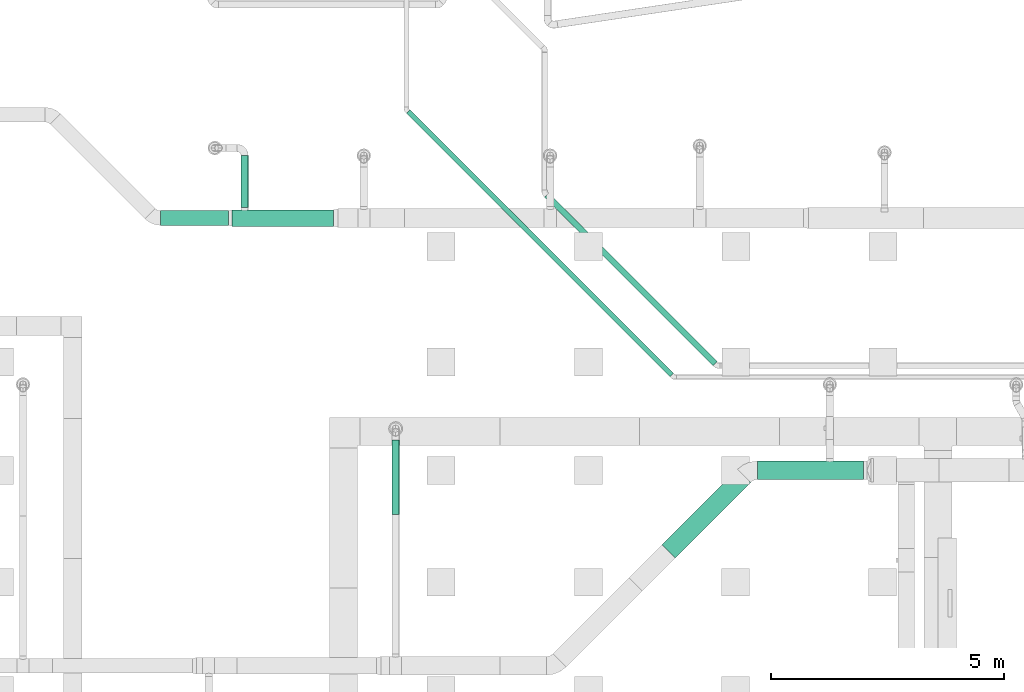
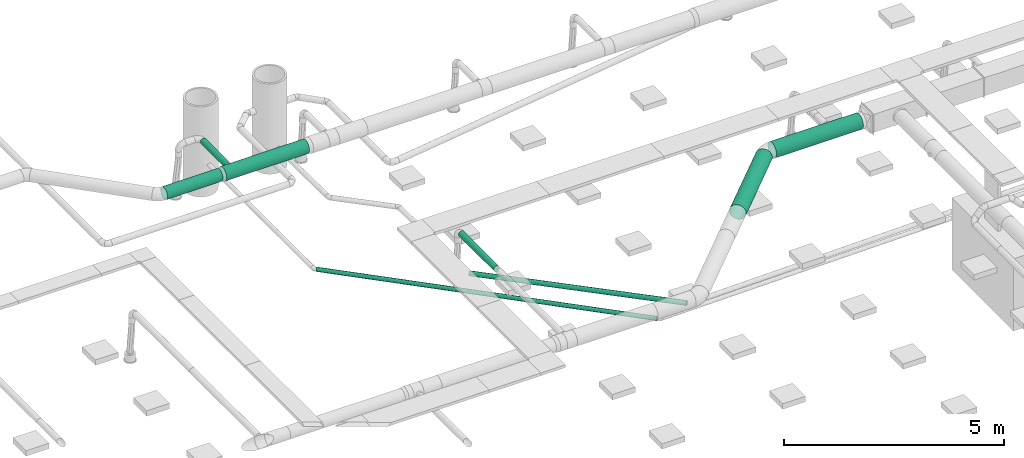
# One storey, part 220 of 374: 8 flow segments.
"""IFC2X3 building model written with IfcOpenShell, lengths in metres."""

from ifc_helpers import new_model, si_unit, direction, origin, place, context, subcontext, project, spatial, open_shell, surface_model, source, transform, mapped, element, save


model = new_model("IFC2X3")

# Units and contexts
model_context = context("Model", 3, precision=1e-05, world=origin(), true_north=direction((-0.4480736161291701, 0.8939966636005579)))
body_context = subcontext(model_context, "Body", "Model", "MODEL_VIEW")
ifc_project = project(units=[si_unit("LENGTHUNIT", "METRE"), si_unit("AREAUNIT", "SQUARE_METRE"), si_unit("VOLUMEUNIT", "CUBIC_METRE"), si_unit("PLANEANGLEUNIT", "RADIAN"), si_unit("THERMODYNAMICTEMPERATUREUNIT", "KELVIN"), si_unit("MASSUNIT", "GRAM", prefix="KILO"), si_unit("TIMEUNIT", "SECOND")], contexts=[model_context])

# Site, building, storey
site_placement = place(None, origin())
site = spatial("IfcSite", under=ifc_project, at=site_placement, Name="Site 1", CompositionType="ELEMENT")
building_placement = place(site_placement, origin())
building = spatial("IfcBuilding", under=site, at=building_placement, Name="Undefined", CompositionType="ELEMENT")
storey_placement = place(building_placement, origin())
storey = spatial("IfcBuildingStorey", under=building, at=storey_placement, Name="Rez de chauss\x8ee", CompositionType="ELEMENT", Elevation=0.0)

# Flow segments
shared_shape_1 = source(origin(), body_context, "Body", "SurfaceModel", [
    surface_model("IfcFaceBasedSurfaceModel", [(0.0, 0.0163157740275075, 0.0), (0.0, 0.0, 0.0), (5.113848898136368, 7.105427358e-15, -8.8817842e-16), (5.113848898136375, 0.01631577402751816, -1.776356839e-15), (0.0, -0.015759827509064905, -0.004222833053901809), (5.113848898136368, -0.0157598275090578, -0.004222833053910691), (0.0, -0.029889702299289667, -0.012380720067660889), (5.1138488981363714, -0.02988970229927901, -0.012380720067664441), (0.0, -0.04142669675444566, -0.02391771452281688), (5.113848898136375, -0.041426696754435, -0.02391771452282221), (0.0, -0.04958458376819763, -0.038047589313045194), (5.1138488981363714, -0.04958458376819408, -0.038047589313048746), (0.0, -0.053807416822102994, -0.053807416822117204), (5.1138488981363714, -0.05380741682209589, -0.05380741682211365), (0.0, -0.053807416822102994, -0.07012319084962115), (5.1138488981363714, -0.05380741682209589, -0.07012319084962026), (0.0, -0.04958458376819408, -0.08588301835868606), (5.1138488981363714, -0.049584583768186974, -0.08588301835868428), (0.0, -0.04142669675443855, -0.10001289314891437), (5.1138488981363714, -0.041426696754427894, -0.1000128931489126), (0.0, -0.02988970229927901, -0.11154988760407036), (5.1138488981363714, -0.029889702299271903, -0.11154988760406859), (0.0, -0.015759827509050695, -0.11970777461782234), (5.113848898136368, -0.015759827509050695, -0.11970777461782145), (0.0, 1.4210854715e-14, -0.12393060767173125), (5.1138488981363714, 2.1316282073e-14, -0.1239306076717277), (0.0, 0.016315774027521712, -0.12393060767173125), (5.113848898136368, 0.01631577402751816, -0.12393060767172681), (0.0, 0.03207560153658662, -0.11970777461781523), (5.113848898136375, 0.03207560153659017, -0.11970777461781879), (0.0, 0.04620547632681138, -0.11154988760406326), (5.1138488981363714, 0.046205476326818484, -0.11154988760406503), (0.0, 0.05774247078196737, -0.10001289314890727), (5.113848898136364, 0.057742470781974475, -0.10001289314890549), (0.0, 0.06590035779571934, -0.08588301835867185), (5.1138488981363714, 0.06590035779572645, -0.08588301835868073), (0.0, 0.0701231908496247, -0.07012319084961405), (5.1138488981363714, 0.07012319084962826, -0.07012319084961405), (0.0, 0.0701231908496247, -0.05380741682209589), (5.1138488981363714, 0.07012319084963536, -0.05380741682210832), (0.0, 0.06590035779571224, -0.03804758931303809), (5.113848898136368, 0.06590035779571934, -0.03804758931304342), (0.0, 0.05774247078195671, -0.023917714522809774), (5.113848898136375, 0.05774247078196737, -0.02391771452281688), (0.0, 0.04620547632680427, -0.012380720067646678), (5.1138488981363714, 0.04620547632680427, -0.012380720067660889), (0.0, 0.03207560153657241, -0.004222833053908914), (5.1138488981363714, 0.032075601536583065, -0.004222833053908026)], [open_shell([[[0, 1, 2, 3]], [[1, 4, 5, 2]], [[4, 6, 7, 5]], [[6, 8, 9, 7]], [[8, 10, 11, 9]], [[10, 12, 13, 11]], [[12, 14, 15, 13]], [[14, 16, 17, 15]], [[16, 18, 19, 17]], [[18, 20, 21, 19]], [[20, 22, 23, 21]], [[22, 24, 25, 23]], [[24, 26, 27, 25]], [[26, 28, 29, 27]], [[28, 30, 31, 29]], [[30, 32, 33, 31]], [[32, 34, 35, 33]], [[34, 36, 37, 35]], [[36, 38, 39, 37]], [[38, 40, 41, 39]], [[40, 42, 43, 41]], [[42, 44, 45, 43]], [[44, 46, 47, 45]], [[46, 0, 3, 47]]])]),
])
flow_segment_1_placement = place(storey_placement, origin())
element("IfcFlowSegment", 1, at=flow_segment_1_placement, inside=storey, Name="PE-HD tuyau", ObjectType="PE-HD tuyau", context=body_context, shape_type="MappedRepresentation", body=[
    mapped(shared_shape_1, transform((38.20433170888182, 21.01013848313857, -1.556930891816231), x_axis=(0.7069654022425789, -0.706965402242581, 0.01999600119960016), y_axis=(0.6992118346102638, 0.7029029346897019, 0.13050009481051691), z_axis=(-0.1063142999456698, -0.0782776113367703, 0.9912466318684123))),
])
shared_shape_2 = source(origin(), body_context, "Body", "SurfaceModel", [
    surface_model("IfcFaceBasedSurfaceModel", [(0.0, 0.014357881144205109, -3.552713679e-15), (0.0, 0.0, 0.0), (7.9999999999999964, 0.0, 4.4408921e-16), (7.999999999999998, 0.01435788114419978, 4.4408921e-16), (0.0, -0.01386864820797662, -0.0037160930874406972), (8.000000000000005, -0.013868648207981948, -0.0037160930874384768), (0.0, -0.026302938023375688, -0.010895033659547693), (8.000000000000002, -0.02630293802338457, -0.010895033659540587), (0.0, -0.03645549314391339, -0.021047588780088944), (7.999999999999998, -0.036455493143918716, -0.021047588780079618), (0.0, -0.04363443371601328, -0.033481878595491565), (7.999999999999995, -0.043634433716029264, -0.03348187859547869), (0.0, -0.04735052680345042, -0.04735052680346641), (7.999999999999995, -0.04735052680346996, -0.047350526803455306), (0.0, -0.04735052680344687, -0.06170840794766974), (7.9999999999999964, -0.04735052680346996, -0.06170840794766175), (0.0, -0.04363443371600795, -0.07557705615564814), (7.999999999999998, -0.04363443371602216, -0.07557705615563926), (0.0, -0.03645549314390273, -0.08801134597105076), (7.999999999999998, -0.03645549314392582, -0.08801134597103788), (0.0, -0.026302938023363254, -0.0981639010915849), (7.999999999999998, -0.02630293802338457, -0.09816390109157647), (0.0, -0.013868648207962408, -0.1053428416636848), (7.999999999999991, -0.013868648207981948, -0.10534284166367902), (0.0, 1.5987211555e-14, -0.10905893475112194), (8.0, -7.105427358e-15, -0.10905893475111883), (0.0, 0.014357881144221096, -0.10905893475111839), (7.999999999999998, 0.014357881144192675, -0.10905893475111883), (0.0, 0.028226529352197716, -0.10534284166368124), (7.9999999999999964, 0.028226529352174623, -0.10534284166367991), (0.0, 0.040660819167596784, -0.0981639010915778), (7.999999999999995, 0.040660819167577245, -0.09816390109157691), (0.0, 0.05081337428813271, -0.08801134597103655), (7.999999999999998, 0.05081337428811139, -0.08801134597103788), (0.0, 0.05799231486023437, -0.07557705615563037), (8.000000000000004, 0.05799231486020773, -0.0755770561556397), (0.0, 0.06170840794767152, -0.06170840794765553), (8.0, 0.061708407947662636, -0.06170840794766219), (0.0, 0.061708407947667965, -0.0473505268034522), (7.999999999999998, 0.061708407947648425, -0.047350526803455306), (0.0, 0.05799231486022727, -0.033481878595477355), (8.0, 0.05799231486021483, -0.033481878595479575), (0.0, 0.050813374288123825, -0.021047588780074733), (7.999999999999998, 0.050813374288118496, -0.021047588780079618), (0.0, 0.04066081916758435, -0.010895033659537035), (7.999999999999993, 0.040660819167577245, -0.010895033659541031), (0.0, 0.028226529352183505, -0.0037160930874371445), (7.9999999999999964, 0.028226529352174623, -0.0037160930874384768)], [open_shell([[[0, 1, 2, 3]], [[1, 4, 5, 2]], [[4, 6, 7, 5]], [[6, 8, 9, 7]], [[8, 10, 11, 9]], [[10, 12, 13, 11]], [[12, 14, 15, 13]], [[14, 16, 17, 15]], [[16, 18, 19, 17]], [[18, 20, 21, 19]], [[20, 22, 23, 21]], [[22, 24, 25, 23]], [[24, 26, 27, 25]], [[26, 28, 29, 27]], [[28, 30, 31, 29]], [[30, 32, 33, 31]], [[32, 34, 35, 33]], [[34, 36, 37, 35]], [[36, 38, 39, 37]], [[38, 40, 41, 39]], [[40, 42, 43, 41]], [[42, 44, 45, 43]], [[44, 46, 47, 45]], [[46, 0, 3, 47]]])]),
])
flow_segment_2_placement = place(storey_placement, origin())
element("IfcFlowSegment", 2, at=flow_segment_2_placement, inside=storey, Name="PE-HD tuyau", ObjectType="PE-HD tuyau", context=body_context, shape_type="MappedRepresentation", body=[
    mapped(shared_shape_2, transform((40.91258523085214, 17.167125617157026, -1.4159488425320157), x_axis=(-0.7070272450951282, 0.7071067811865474, -0.010605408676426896), y_axis=(-0.7029362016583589, -0.7010573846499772, 0.11999683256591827), z_axis=(0.07741557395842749, 0.09229595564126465, 0.9927176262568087))),
])
shared_shape_3 = source(origin(), body_context, "Body", "SurfaceModel", [
    surface_model("IfcFaceBasedSurfaceModel", [(0.0, 0.020884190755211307, 0.0), (0.0, 0.0, 0.0), (1.5991548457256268, 0.0, 0.0), (1.5991548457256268, 0.020884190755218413, 0.0), (0.0, -0.020172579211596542, -0.005405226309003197), (1.5991548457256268, -0.020172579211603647, -0.005405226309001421), (0.0, -0.03825881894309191, -0.015847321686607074), (1.5991548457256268, -0.038258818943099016, -0.015847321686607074), (0.0, -0.05302617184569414, -0.0306146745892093), (1.5991548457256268, -0.05302617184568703, -0.0306146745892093), (0.0, -0.06346826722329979, -0.04870091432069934), (1.5991548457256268, -0.06346826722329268, -0.048700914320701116), (0.0, -0.06887349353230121, -0.06887349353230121), (1.5991548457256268, -0.06887349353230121, -0.06887349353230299), (0.0, -0.06887349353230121, -0.08975768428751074), (1.5991548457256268, -0.0688734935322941, -0.08975768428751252), (0.0, -0.06346826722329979, -0.10993026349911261), (1.5991548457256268, -0.06346826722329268, -0.10993026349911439), (0.0, -0.05302617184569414, -0.12801650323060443), (1.5991548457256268, -0.05302617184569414, -0.12801650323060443), (0.0, -0.038258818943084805, -0.14278385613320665), (1.5991548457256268, -0.038258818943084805, -0.14278385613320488), (0.0, -0.020172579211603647, -0.15322595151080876), (1.5991548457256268, -0.020172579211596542, -0.15322595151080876), (0.0, 7.105427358e-15, -0.15863117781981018), (1.5991548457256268, 1.4210854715e-14, -0.15863117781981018), (0.0, 0.020884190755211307, -0.15863117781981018), (1.5991548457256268, 0.020884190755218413, -0.15863117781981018), (0.0, 0.04105676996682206, -0.15322595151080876), (1.5991548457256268, 0.04105676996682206, -0.15322595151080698), (0.0, 0.05914300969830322, -0.1427838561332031), (1.5991548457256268, 0.05914300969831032, -0.14278385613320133), (0.0, 0.07391036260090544, -0.12801650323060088), (1.5991548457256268, 0.07391036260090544, -0.1280165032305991), (0.0, 0.0843524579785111, -0.10993026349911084), (1.5991548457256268, 0.0843524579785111, -0.10993026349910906), (0.0, 0.08975768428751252, -0.08975768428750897), (1.5991548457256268, 0.08975768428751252, -0.08975768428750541), (0.0, 0.08975768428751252, -0.06887349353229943), (1.5991548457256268, 0.08975768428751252, -0.06887349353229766), (0.0, 0.0843524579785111, -0.048700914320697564), (1.5991548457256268, 0.0843524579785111, -0.04870091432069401), (0.0, 0.07391036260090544, -0.030614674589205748), (1.5991548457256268, 0.07391036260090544, -0.030614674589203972), (0.0, 0.05914300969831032, -0.015847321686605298), (1.5991548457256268, 0.05914300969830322, -0.01584732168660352), (0.0, 0.04105676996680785, -0.005405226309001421), (1.5991548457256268, 0.041056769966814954, -0.005405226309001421)], [open_shell([[[0, 1, 2, 3]], [[1, 4, 5, 2]], [[4, 6, 7, 5]], [[6, 8, 9, 7]], [[8, 10, 11, 9]], [[10, 12, 13, 11]], [[12, 14, 15, 13]], [[14, 16, 17, 15]], [[16, 18, 19, 17]], [[18, 20, 21, 19]], [[20, 22, 23, 21]], [[22, 24, 25, 23]], [[24, 26, 27, 25]], [[26, 28, 29, 27]], [[28, 30, 31, 29]], [[30, 32, 33, 31]], [[32, 34, 35, 33]], [[34, 36, 37, 35]], [[36, 38, 39, 37]], [[38, 40, 41, 39]], [[40, 42, 43, 41]], [[42, 44, 45, 43]], [[44, 46, 47, 45]], [[46, 0, 3, 47]]])]),
])
flow_segment_3_placement = place(storey_placement, origin())
element("IfcFlowSegment", 3, at=flow_segment_3_placement, inside=storey, Name="Tube", ObjectType="Tube", context=body_context, shape_type="MappedRepresentation", body=[
    mapped(shared_shape_3, transform((34.99670139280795, 14.169193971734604, 3.877274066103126), x_axis=(0.0, 1.0, 0.0), y_axis=(-0.9914448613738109, 0.0, 0.1305261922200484), z_axis=(0.1305261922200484, 0.0, 0.9914448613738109))),
])
shared_shape_4 = source(origin(), body_context, "Body", "SurfaceModel", [
    surface_model("IfcFaceBasedSurfaceModel", [(0.0, 0.04111575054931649, 0.0), (0.0, 0.0, 0.0), (1.45276648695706, 0.0, 0.0), (1.45276648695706, 0.04111575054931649, 0.0), (0.0, -0.03971476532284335, -0.010641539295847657), (1.45276648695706, -0.039714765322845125, -0.010641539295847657), (0.0, -0.0753220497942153, -0.0311994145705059), (1.45276648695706, -0.07532204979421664, -0.0311994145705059), (0.0, -0.10439527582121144, -0.060272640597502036), (1.45276648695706, -0.10439527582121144, -0.06027264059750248), (0.0, -0.12495315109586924, -0.09587992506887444), (1.45276648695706, -0.12495315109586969, -0.095879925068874), (0.0, -0.13559469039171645, -0.13559469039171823), (1.45276648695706, -0.13559469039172, -0.13559469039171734), (0.0, -0.135594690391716, -0.17671044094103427), (1.45276648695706, -0.13559469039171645, -0.17671044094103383), (0.0, -0.1249531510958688, -0.21642520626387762), (1.45276648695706, -0.12495315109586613, -0.21642520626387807), (0.0, -0.10439527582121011, -0.2520324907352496), (1.45276648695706, -0.10439527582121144, -0.2520324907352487), (0.0, -0.07532204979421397, -0.2811057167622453), (1.45276648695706, -0.07532204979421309, -0.2811057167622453), (0.0, -0.039714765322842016, -0.3016635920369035), (1.45276648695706, -0.03971476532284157, -0.3016635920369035), (0.0, 1.776356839e-15, -0.3123051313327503), (1.45276648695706, 0.0, -0.3123051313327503), (0.0, 0.041115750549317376, -0.31230513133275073), (1.45276648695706, 0.04111575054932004, -0.3123051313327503), (0.0, 0.08083051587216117, -0.30166359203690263), (1.45276648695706, 0.08083051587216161, -0.30166359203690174), (0.0, 0.11643780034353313, -0.28110571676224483), (1.45276648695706, 0.11643780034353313, -0.2811057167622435), (0.0, 0.14551102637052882, -0.25203249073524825), (1.45276648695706, 0.14551102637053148, -0.2520324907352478), (0.0, 0.16606890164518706, -0.2164252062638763), (1.45276648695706, 0.16606890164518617, -0.2164252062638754), (0.0, 0.17671044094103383, -0.1767104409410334), (1.45276648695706, 0.17671044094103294, -0.17671044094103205), (0.0, 0.17671044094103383, -0.1355946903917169), (1.45276648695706, 0.17671044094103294, -0.13559469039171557), (0.0, 0.16606890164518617, -0.09587992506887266), (1.45276648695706, 0.16606890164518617, -0.09587992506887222), (0.0, 0.14551102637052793, -0.06027264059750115), (1.45276648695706, 0.14551102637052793, -0.060272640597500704), (0.0, 0.1164378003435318, -0.031199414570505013), (1.45276648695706, 0.11643780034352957, -0.031199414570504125), (0.0, 0.08083051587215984, -0.010641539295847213), (1.45276648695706, 0.08083051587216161, -0.01064153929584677)], [open_shell([[[0, 1, 2, 3]], [[1, 4, 5, 2]], [[4, 6, 7, 5]], [[6, 8, 9, 7]], [[8, 10, 11, 9]], [[10, 12, 13, 11]], [[12, 14, 15, 13]], [[14, 16, 17, 15]], [[16, 18, 19, 17]], [[18, 20, 21, 19]], [[20, 22, 23, 21]], [[22, 24, 25, 23]], [[24, 26, 27, 25]], [[26, 28, 29, 27]], [[28, 30, 31, 29]], [[30, 32, 33, 31]], [[32, 34, 35, 33]], [[34, 36, 37, 35]], [[36, 38, 39, 37]], [[38, 40, 41, 39]], [[40, 42, 43, 41]], [[42, 44, 45, 43]], [[44, 46, 47, 45]], [[46, 0, 3, 47]]])]),
])
flow_segment_4_placement = place(storey_placement, origin())
element("IfcFlowSegment", 4, at=flow_segment_4_placement, inside=storey, Name="Tube", ObjectType="Tube", context=body_context, shape_type="MappedRepresentation", body=[
    mapped(shared_shape_4, transform((31.38490627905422, 20.567652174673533, 3.952133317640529), x_axis=(-1.0, 0.0, 0.0), y_axis=(7.266545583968e-12, -0.9914448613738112, 0.13052619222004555), z_axis=(0.0, 0.13052619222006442, 0.9914448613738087))),
])
shared_shape_5 = source(origin(), body_context, "Body", "SurfaceModel", [
    surface_model("IfcFaceBasedSurfaceModel", [(0.0, 0.05221047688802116, -8.8817842e-16), (0.0, 0.0, 0.0), (2.2940076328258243, 0.0, 8.8817842e-16), (2.2940076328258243, 0.052210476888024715, -8.8817842e-16), (0.0, -0.05043144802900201, -0.013513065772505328), (2.2940076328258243, -0.05043144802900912, -0.01351306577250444), (0.0, -0.09564704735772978, -0.0396183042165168), (2.2940076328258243, -0.09564704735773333, -0.03961830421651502), (0.0, -0.1325654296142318, -0.07653668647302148), (2.2940076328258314, -0.1325654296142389, -0.07653668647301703), (0.0, -0.15867066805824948, -0.12175228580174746), (2.2940076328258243, -0.15867066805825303, -0.12175228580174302), (0.0, -0.17218373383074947, -0.17218373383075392), (2.2940076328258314, -0.17218373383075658, -0.17218373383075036), (0.0, -0.17218373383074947, -0.22439421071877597), (2.2940076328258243, -0.17218373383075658, -0.22439421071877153), (0.0, -0.15867066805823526, -0.2748256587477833), (2.2940076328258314, -0.15867066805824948, -0.27482565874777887), (0.0, -0.1325654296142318, -0.3200412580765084), (2.2940076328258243, -0.1325654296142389, -0.32004125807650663), (0.0, -0.09564704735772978, -0.35695964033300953), (2.2940076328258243, -0.09564704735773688, -0.35695964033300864), (0.0, -0.050431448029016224, -0.3830648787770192), (2.2940076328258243, -0.05043144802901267, -0.3830648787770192), (0.0, 0.0, -0.39657794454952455), (2.2940076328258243, 0.0, -0.39657794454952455), (0.0, 0.05221047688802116, -0.3965779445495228), (2.2940076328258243, 0.05221047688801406, -0.39657794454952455), (0.0, 0.10264192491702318, -0.38306487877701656), (2.2940076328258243, 0.10264192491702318, -0.3830648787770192), (0.0, 0.14785752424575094, -0.356959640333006), (2.2940076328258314, 0.14785752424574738, -0.3569596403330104), (0.0, 0.18477590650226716, -0.32004125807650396), (2.2940076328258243, 0.1847759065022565, -0.3200412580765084), (0.0, 0.21088114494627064, -0.2748256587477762), (2.2940076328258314, 0.21088114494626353, -0.27482565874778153), (0.0, 0.22439421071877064, -0.22439421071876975), (2.2940076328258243, 0.2243942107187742, -0.2243942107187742), (0.0, 0.22439421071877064, -0.1721837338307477), (2.2940076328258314, 0.22439421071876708, -0.17218373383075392), (0.0, 0.21088114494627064, -0.12175228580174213), (2.2940076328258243, 0.21088114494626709, -0.12175228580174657), (0.0, 0.18477590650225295, -0.07653668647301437), (2.2940076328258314, 0.18477590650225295, -0.0765366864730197), (0.0, 0.14785752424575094, -0.03961830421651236), (2.2940076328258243, 0.14785752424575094, -0.0396183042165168), (0.0, 0.10264192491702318, -0.013513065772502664), (2.2940076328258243, 0.10264192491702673, -0.01351306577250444)], [open_shell([[[0, 1, 2, 3]], [[1, 4, 5, 2]], [[4, 6, 7, 5]], [[6, 8, 9, 7]], [[8, 10, 11, 9]], [[10, 12, 13, 11]], [[12, 14, 15, 13]], [[14, 16, 17, 15]], [[16, 18, 19, 17]], [[18, 20, 21, 19]], [[20, 22, 23, 21]], [[22, 24, 25, 23]], [[24, 26, 27, 25]], [[26, 28, 29, 27]], [[28, 30, 31, 29]], [[30, 32, 33, 31]], [[32, 34, 35, 33]], [[34, 36, 37, 35]], [[36, 38, 39, 37]], [[38, 40, 41, 39]], [[40, 42, 43, 41]], [[42, 44, 45, 43]], [[44, 46, 47, 45]], [[46, 0, 3, 47]]])]),
])
flow_segment_5_placement = place(storey_placement, origin())
element("IfcFlowSegment", 5, at=flow_segment_5_placement, inside=storey, Name="Tube", ObjectType="Tube", context=body_context, shape_type="MappedRepresentation", body=[
    mapped(shared_shape_5, transform((40.8687892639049, 13.337705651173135, 3.9931851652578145), x_axis=(0.7071067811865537, 0.7071067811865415, -8.5491534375e-14), y_axis=(-0.7010573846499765, 0.701057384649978, 0.13052619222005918), z_axis=(0.0922959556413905, -0.09229595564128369, 0.9914448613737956))),
])
shared_shape_6 = source(origin(), body_context, "Body", "SurfaceModel", [
    surface_model("IfcFaceBasedSurfaceModel", [(0.0, 0.05221047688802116, -8.8817842e-16), (0.0, 0.0, 0.0), (2.2767300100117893, 1.776356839e-15, -4.4408921e-16), (2.2767300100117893, 0.05221047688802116, 0.0), (0.0, -0.05043144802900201, -0.013513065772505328), (2.2767300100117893, -0.05043144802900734, -0.013513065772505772), (0.0, -0.09564704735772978, -0.0396183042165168), (2.2767300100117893, -0.09564704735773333, -0.039618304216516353), (0.0, -0.1325654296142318, -0.07653668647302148), (2.2767300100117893, -0.13256542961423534, -0.07653668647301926), (0.0, -0.15867066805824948, -0.12175228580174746), (2.2767300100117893, -0.15867066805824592, -0.12175228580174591), (0.0, -0.17218373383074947, -0.17218373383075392), (2.2767300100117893, -0.17218373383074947, -0.1721837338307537), (0.0, -0.17218373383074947, -0.22439421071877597), (2.2767300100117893, -0.17218373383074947, -0.2243942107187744), (0.0, -0.15867066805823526, -0.2748256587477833), (2.2767300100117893, -0.15867066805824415, -0.2748256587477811), (0.0, -0.1325654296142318, -0.3200412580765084), (2.2767300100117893, -0.13256542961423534, -0.32004125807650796), (0.0, -0.09564704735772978, -0.35695964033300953), (2.2767300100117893, -0.09564704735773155, -0.35695964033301), (0.0, -0.050431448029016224, -0.3830648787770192), (2.2767300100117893, -0.05043144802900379, -0.383064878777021), (0.0, 0.0, -0.39657794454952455), (2.2767300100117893, 3.552713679e-15, -0.396577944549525), (0.0, 0.05221047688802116, -0.3965779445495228), (2.2767300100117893, 0.05221047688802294, -0.3965779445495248), (0.0, 0.10264192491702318, -0.38306487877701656), (2.2767300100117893, 0.10264192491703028, -0.383064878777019), (0.0, 0.14785752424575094, -0.356959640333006), (2.2767300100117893, 0.14785752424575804, -0.3569596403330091), (0.0, 0.18477590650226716, -0.32004125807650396), (2.2767300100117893, 0.18477590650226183, -0.3200412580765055), (0.0, 0.21088114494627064, -0.2748256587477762), (2.2767300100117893, 0.21088114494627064, -0.27482565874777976), (0.0, 0.22439421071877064, -0.22439421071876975), (2.2767300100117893, 0.2243942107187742, -0.2243942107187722), (0.0, 0.22439421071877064, -0.1721837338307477), (2.2767300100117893, 0.2243942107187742, -0.17218373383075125), (0.0, 0.21088114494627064, -0.12175228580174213), (2.2767300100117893, 0.21088114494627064, -0.12175228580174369), (0.0, 0.18477590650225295, -0.07653668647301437), (2.2767300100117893, 0.18477590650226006, -0.07653668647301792), (0.0, 0.14785752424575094, -0.03961830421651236), (2.2767300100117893, 0.1478575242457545, -0.0396183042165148), (0.0, 0.10264192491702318, -0.013513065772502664), (2.2767300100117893, 0.1026419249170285, -0.013513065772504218)], [open_shell([[[0, 1, 2, 3]], [[1, 4, 5, 2]], [[4, 6, 7, 5]], [[6, 8, 9, 7]], [[8, 10, 11, 9]], [[10, 12, 13, 11]], [[12, 14, 15, 13]], [[14, 16, 17, 15]], [[16, 18, 19, 17]], [[18, 20, 21, 19]], [[20, 22, 23, 21]], [[22, 24, 25, 23]], [[24, 26, 27, 25]], [[26, 28, 29, 27]], [[28, 30, 31, 29]], [[30, 32, 33, 31]], [[32, 34, 35, 33]], [[34, 36, 37, 35]], [[36, 38, 39, 37]], [[38, 40, 41, 39]], [[40, 42, 43, 41]], [[42, 44, 45, 43]], [[44, 46, 47, 45]], [[46, 0, 3, 47]]])]),
])
flow_segment_6_placement = place(storey_placement, origin())
element("IfcFlowSegment", 6, at=flow_segment_6_placement, inside=storey, Name="Tube", ObjectType="Tube", context=body_context, shape_type="MappedRepresentation", body=[
    mapped(shared_shape_6, transform((42.737137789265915, 15.165337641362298, 3.6068148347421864), x_axis=(1.0, 0.0, 0.0), y_axis=(0.0, -0.9914448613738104, -0.13052619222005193), z_axis=(0.0, 0.13052619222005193, -0.9914448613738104))),
])
shared_shape_7 = source(origin(), body_context, "Body", "SurfaceModel", [
    surface_model("IfcFaceBasedSurfaceModel", [(0.0, 0.046336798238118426, 0.0), (0.0, 0.0, 0.0), (2.1726002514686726, 0.0, 2.22044605e-16), (2.1726002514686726, 0.04633679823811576, -2.22044605e-16), (0.0, -0.044757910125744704, -0.0119928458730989), (2.1726002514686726, -0.04475791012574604, -0.011992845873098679), (0.0, -0.08488675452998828, -0.035161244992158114), (2.1726002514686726, -0.08488675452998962, -0.035161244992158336), (0.0, -0.11765181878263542, -0.06792630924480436), (2.1726002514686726, -0.11765181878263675, -0.06792630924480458), (0.0, -0.1408202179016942, -0.10805515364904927), (2.1726002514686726, -0.14082021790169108, -0.10805515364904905), (0.0, -0.15281306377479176, -0.15281306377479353), (2.1726002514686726, -0.15281306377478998, -0.1528130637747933), (0.0, -0.1528130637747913, -0.19914986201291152), (2.1726002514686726, -0.15281306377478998, -0.1991498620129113), (0.0, -0.14082021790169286, -0.24390777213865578), (2.1726002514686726, -0.14082021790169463, -0.243907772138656), (0.0, -0.11765181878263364, -0.2840366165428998), (2.1726002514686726, -0.1176518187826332, -0.2840366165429), (0.0, -0.0848867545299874, -0.31680168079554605), (2.1726002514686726, -0.08488675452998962, -0.31680168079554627), (0.0, -0.044757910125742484, -0.3399700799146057), (2.1726002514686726, -0.044757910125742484, -0.33997007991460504), (0.0, 1.776356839e-15, -0.35196292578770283), (2.1726002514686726, 0.0, -0.35196292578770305), (0.0, 0.0463367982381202, -0.3519629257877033), (2.1726002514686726, 0.046336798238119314, -0.3519629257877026), (0.0, 0.09109470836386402, -0.3399700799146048), (2.1726002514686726, 0.0910947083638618, -0.33997007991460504), (0.0, 0.13122355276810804, -0.31680168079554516), (2.1726002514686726, 0.13122355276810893, -0.31680168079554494), (0.0, 0.16398861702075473, -0.2840366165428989), (2.1726002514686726, 0.16398861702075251, -0.2840366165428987), (0.0, 0.18715701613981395, -0.243907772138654), (2.1726002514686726, 0.18715701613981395, -0.24390777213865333), (0.0, 0.19914986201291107, -0.19914986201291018), (2.1726002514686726, 0.19914986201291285, -0.19914986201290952), (0.0, 0.19914986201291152, -0.15281306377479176), (2.1726002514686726, 0.19914986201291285, -0.1528130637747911), (0.0, 0.18715701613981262, -0.1080551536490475), (2.1726002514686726, 0.1871570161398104, -0.10805515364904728), (0.0, 0.1639886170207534, -0.06792630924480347), (2.1726002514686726, 0.16398861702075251, -0.06792630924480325), (0.0, 0.1312235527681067, -0.03516124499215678), (2.1726002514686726, 0.13122355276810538, -0.035161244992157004), (0.0, 0.09109470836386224, -0.011992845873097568), (2.1726002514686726, 0.0910947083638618, -0.011992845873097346)], [open_shell([[[0, 1, 2, 3]], [[1, 4, 5, 2]], [[4, 6, 7, 5]], [[6, 8, 9, 7]], [[8, 10, 11, 9]], [[10, 12, 13, 11]], [[12, 14, 15, 13]], [[14, 16, 17, 15]], [[16, 18, 19, 17]], [[18, 20, 21, 19]], [[20, 22, 23, 21]], [[22, 24, 25, 23]], [[24, 26, 27, 25]], [[26, 28, 29, 27]], [[28, 30, 31, 29]], [[30, 32, 33, 31]], [[32, 34, 35, 33]], [[34, 36, 37, 35]], [[36, 38, 39, 37]], [[38, 40, 41, 39]], [[40, 42, 43, 41]], [[42, 44, 45, 43]], [[44, 46, 47, 45]], [[46, 0, 3, 47]]])]),
])
flow_segment_7_placement = place(storey_placement, origin())
element("IfcFlowSegment", 7, at=flow_segment_7_placement, inside=storey, Name="Tube", ObjectType="Tube", context=body_context, shape_type="MappedRepresentation", body=[
    mapped(shared_shape_7, transform((31.46990627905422, 20.480947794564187, 3.9714518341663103), x_axis=(1.0, 0.0, 0.0), y_axis=(0.0, 0.9914448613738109, 0.1305261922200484), z_axis=(0.0, -0.1305261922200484, 0.9914448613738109))),
])
shared_shape_8 = source(origin(), body_context, "Body", "SurfaceModel", [
    surface_model("IfcFaceBasedSurfaceModel", [(0.0, 0.020884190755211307, 0.0), (0.0, 0.0, 0.0), (1.1156076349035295, -3.552713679e-15, -1.66533454e-16), (1.1156076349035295, 0.020884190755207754, 2.77555756e-16), (0.0, -0.020172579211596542, -0.005405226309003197), (1.1156076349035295, -0.020172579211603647, -0.005405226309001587), (0.0, -0.03825881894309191, -0.015847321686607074), (1.1156076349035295, -0.03825881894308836, -0.01584732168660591), (0.0, -0.05302617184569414, -0.0306146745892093), (1.1156076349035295, -0.053026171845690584, -0.030614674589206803), (0.0, -0.06346826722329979, -0.04870091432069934), (1.1156076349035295, -0.06346826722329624, -0.04870091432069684), (0.0, -0.06887349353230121, -0.06887349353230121), (1.1156076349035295, -0.06887349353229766, -0.06887349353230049), (0.0, -0.06887349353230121, -0.08975768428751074), (1.1156076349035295, -0.06887349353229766, -0.0897576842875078), (0.0, -0.06346826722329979, -0.10993026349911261), (1.1156076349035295, -0.06346826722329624, -0.10993026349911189), (0.0, -0.05302617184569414, -0.12801650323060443), (1.1156076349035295, -0.053026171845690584, -0.12801650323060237), (0.0, -0.038258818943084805, -0.14278385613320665), (1.1156076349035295, -0.03825881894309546, -0.14278385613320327), (0.0, -0.020172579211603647, -0.15322595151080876), (1.1156076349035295, -0.0201725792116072, -0.1532259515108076), (0.0, 7.105427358e-15, -0.15863117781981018), (1.1156076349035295, 0.0, -0.158631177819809), (0.0, 0.020884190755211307, -0.15863117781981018), (1.1156076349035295, 0.0208841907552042, -0.158631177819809), (0.0, 0.04105676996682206, -0.15322595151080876), (1.1156076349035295, 0.0410567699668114, -0.15322595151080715), (0.0, 0.05914300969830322, -0.1427838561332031), (1.1156076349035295, 0.05914300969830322, -0.1427838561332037), (0.0, 0.07391036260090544, -0.12801650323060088), (1.1156076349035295, 0.07391036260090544, -0.12801650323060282), (0.0, 0.0843524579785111, -0.10993026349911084), (1.1156076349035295, 0.08435245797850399, -0.10993026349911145), (0.0, 0.08975768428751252, -0.08975768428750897), (1.1156076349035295, 0.08975768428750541, -0.08975768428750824), (0.0, 0.08975768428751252, -0.06887349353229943), (1.1156076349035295, 0.08975768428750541, -0.06887349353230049), (0.0, 0.0843524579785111, -0.048700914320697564), (1.1156076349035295, 0.08435245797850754, -0.04870091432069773), (0.0, 0.07391036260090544, -0.030614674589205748), (1.1156076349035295, 0.07391036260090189, -0.030614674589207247), (0.0, 0.05914300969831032, -0.015847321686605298), (1.1156076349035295, 0.05914300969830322, -0.015847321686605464), (0.0, 0.04105676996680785, -0.005405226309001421), (1.1156076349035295, 0.04105676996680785, -0.005405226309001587)], [open_shell([[[0, 1, 2, 3]], [[1, 4, 5, 2]], [[4, 6, 7, 5]], [[6, 8, 9, 7]], [[8, 10, 11, 9]], [[10, 12, 13, 11]], [[12, 14, 15, 13]], [[14, 16, 17, 15]], [[16, 18, 19, 17]], [[18, 20, 21, 19]], [[20, 22, 23, 21]], [[22, 24, 25, 23]], [[24, 26, 27, 25]], [[26, 28, 29, 27]], [[28, 30, 31, 29]], [[30, 32, 33, 31]], [[32, 34, 35, 33]], [[34, 36, 37, 35]], [[36, 38, 39, 37]], [[38, 40, 41, 39]], [[40, 42, 43, 41]], [[42, 44, 45, 43]], [[44, 46, 47, 45]], [[46, 0, 3, 47]]])]),
])
flow_segment_8_placement = place(storey_placement, origin())
element("IfcFlowSegment", 8, at=flow_segment_8_placement, inside=storey, Name="Tube", ObjectType="Tube", context=body_context, shape_type="MappedRepresentation", body=[
    mapped(shared_shape_8, transform((31.755611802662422, 21.869995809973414, 3.7227259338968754), x_axis=(0.0, -1.0, 0.0), y_axis=(-0.9914448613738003, 0.0, -0.13052619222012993), z_axis=(0.130526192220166, 0.0, -0.9914448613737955))),
])

save(model, "model.ifc")
